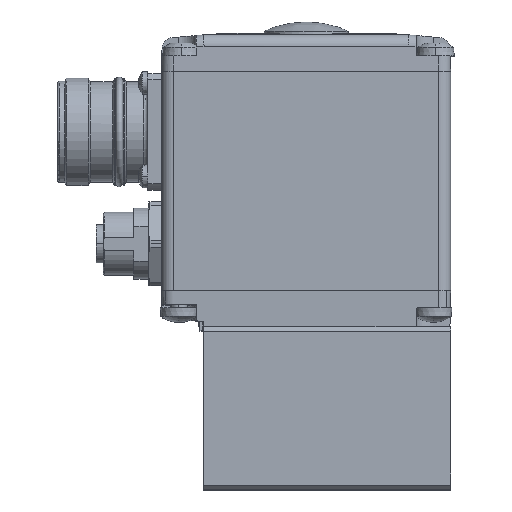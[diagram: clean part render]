
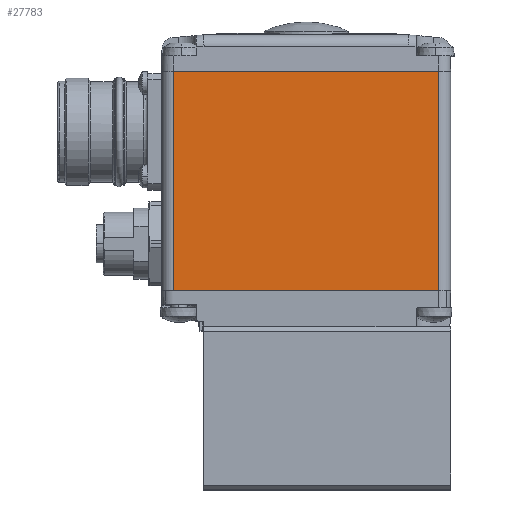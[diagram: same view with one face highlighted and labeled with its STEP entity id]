
A CAD part, top view. The second image highlights one B-rep face of the part: STEP entity #27783.
In plain terms, the highlighted planar face has unit normal (0, 0, 1).
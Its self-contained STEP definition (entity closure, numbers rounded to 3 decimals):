
#3291 = AXIS2_PLACEMENT_3D ( 'NONE', #13531, #13533, #13535 ) ;
#8882 = CARTESIAN_POINT ( 'NONE',  ( -59.5, 72.3, 17.65 ) ) ;
#8889 = CARTESIAN_POINT ( 'NONE',  ( -2.5, 72.3, 17.65 ) ) ;
#8893 = CARTESIAN_POINT ( 'NONE',  ( -2.5, 25.3, 17.65 ) ) ;
#8895 = CARTESIAN_POINT ( 'NONE',  ( -59.5, 25.3, 17.65 ) ) ;
#13516 = PLANE ( 'NONE',  #3291 ) ;
#13531 = CARTESIAN_POINT ( 'NONE',  ( -59.5, 72.3, 17.65 ) ) ;
#13533 = DIRECTION ( 'NONE',  ( 0., 0., -1. ) ) ;
#13535 = DIRECTION ( 'NONE',  ( 1., 0., 0. ) ) ;
#14582 = FACE_OUTER_BOUND ( 'NONE', #113923, .T. ) ;
#27783 = ADVANCED_FACE ( 'NONE', ( #14582 ), #13516, .F. ) ;
#58146 = LINE ( 'NONE', #66938, #58149 ) ;
#58149 = VECTOR ( 'NONE', #66939, 1000. ) ;
#58284 = LINE ( 'NONE', #67114, #58290 ) ;
#58290 = VECTOR ( 'NONE', #67117, 1000. ) ;
#59175 = LINE ( 'NONE', #73837, #59180 ) ;
#59180 = VECTOR ( 'NONE', #73838, 1000. ) ;
#61742 = ORIENTED_EDGE ( 'NONE', *, *, #86380, .F. ) ;
#61745 = ORIENTED_EDGE ( 'NONE', *, *, #94330, .F. ) ;
#61748 = ORIENTED_EDGE ( 'NONE', *, *, #87053, .T. ) ;
#61750 = ORIENTED_EDGE ( 'NONE', *, *, #86279, .T. ) ;
#66938 = CARTESIAN_POINT ( 'NONE',  ( -59.5, 72.3, 17.65 ) ) ;
#66939 = DIRECTION ( 'NONE',  ( 0., -1., 0. ) ) ;
#67114 = CARTESIAN_POINT ( 'NONE',  ( -59.5, 25.3, 17.65 ) ) ;
#67117 = DIRECTION ( 'NONE',  ( -1., 0., 0. ) ) ;
#73837 = CARTESIAN_POINT ( 'NONE',  ( -59.5, 72.3, 17.65 ) ) ;
#73838 = DIRECTION ( 'NONE',  ( -1., 0., 0. ) ) ;
#75836 = LINE ( 'NONE', #83624, #75849 ) ;
#75849 = VECTOR ( 'NONE', #83646, 1000. ) ;
#83624 = CARTESIAN_POINT ( 'NONE',  ( -2.5, 72.3, 17.65 ) ) ;
#83646 = DIRECTION ( 'NONE',  ( 0., -1., 0. ) ) ;
#86279 = EDGE_CURVE ( 'NONE', #108455, #108471, #58146, .T. ) ;
#86380 = EDGE_CURVE ( 'NONE', #108468, #108471, #58284, .T. ) ;
#87053 = EDGE_CURVE ( 'NONE', #108464, #108455, #59175, .T. ) ;
#94330 = EDGE_CURVE ( 'NONE', #108464, #108468, #75836, .T. ) ;
#108455 = VERTEX_POINT ( 'NONE', #8882 ) ;
#108464 = VERTEX_POINT ( 'NONE', #8889 ) ;
#108468 = VERTEX_POINT ( 'NONE', #8893 ) ;
#108471 = VERTEX_POINT ( 'NONE', #8895 ) ;
#113923 = EDGE_LOOP ( 'NONE', ( #61742, #61745, #61748, #61750 ) ) ;
